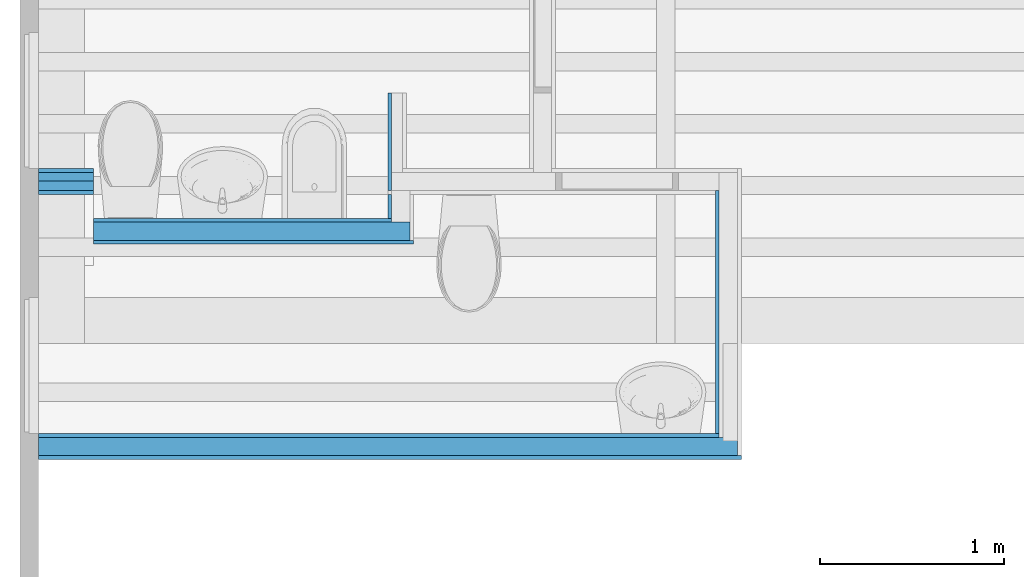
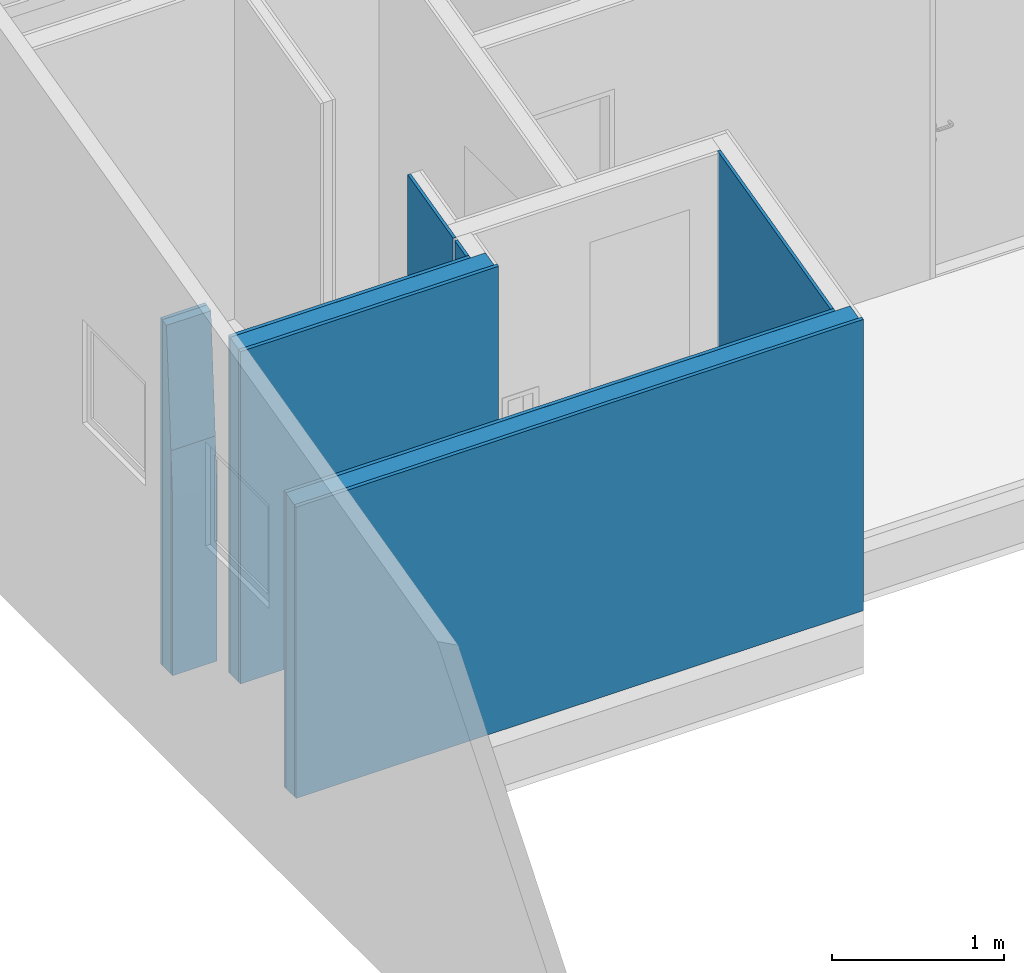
# One storey, part 6 of 13: 12 building element parts, 6 elements without a shape of their own.
"""IFC2X3 building model written with IfcOpenShell, lengths in millimetres."""

import ifcopenshell
import ifcopenshell.guid

model = None  # the IFC model being written
_history = None  # IfcOwnerHistory: only IFC2X3 demands one
_inside = {}  # id of a spatial element -> (the spatial element, [elements in it])
_under = {}  # id of a project, library or spatial element -> (it, [spatial elements below it])
_declared = {}  # id of a project -> (the project, [libraries it declares])
_typed = {}  # id of a type object -> (the type object, [elements of that type])
_made_of = {}  # id of a material, layer set ... -> (it, [elements and type objects made of it])


def new_model(schema):
    """Start an empty IFC model of exactly this schema.

    Asked for "IFC4X3", IfcOpenShell would pick the latest addendum, in which some entities
    have other attributes; the version numbers below select the first issue.
    IFC2X3 requires an IfcOwnerHistory on every rooted entity: one is made here for all.
    """
    global model, _history
    if schema == "IFC4X3":
        model = ifcopenshell.file(schema_version=(4, 3, 0, 0))
    else:
        model = ifcopenshell.file(schema=schema)
    _inside.clear()
    _under.clear()
    _declared.clear()
    _typed.clear()
    _made_of.clear()
    _history = None
    if model.schema == "IFC2X3":
        org = make("IfcOrganization", Name="unknown")
        user = make(
            "IfcPersonAndOrganization",
            ThePerson=make("IfcPerson", FamilyName="unknown"),
            TheOrganization=org,
        )
        app = make(
            "IfcApplication",
            ApplicationDeveloper=org,
            Version="unknown",
            ApplicationFullName="unknown",
            ApplicationIdentifier="unknown",
        )
        _history = make(
            "IfcOwnerHistory",
            OwningUser=user,
            OwningApplication=app,
            ChangeAction="ADDED",
            CreationDate=0,
        )
    return model


def make(cls, **values):
    """One entity of the class cls with the attributes given. An attribute that is None is left unset."""
    return model.create_entity(
        cls, **{name: value for name, value in values.items() if value is not None}
    )


def entity(cls, *values):
    """Any entity or typed value of the class cls, its attributes in the order of the schema. None: left unset."""
    e = model.create_entity(cls)
    for i, value in enumerate(values):
        if value is not None:
            e[i] = value
    return e


def rooted(cls, **values):
    """An entity with a GlobalId (a new one), such as an element, a storey or a relation."""
    return make(cls, GlobalId=ifcopenshell.guid.new(), OwnerHistory=_history, **values)


def si_unit(unit_type, name, prefix=None):
    """IfcSIUnit, for example si_unit("LENGTHUNIT", "METRE", prefix="MILLI")."""
    return make("IfcSIUnit", UnitType=unit_type, Prefix=prefix, Name=name)


def converted_unit(unit_type, name, factor, base, dimensions=None, offset=None):
    """IfcConversionBasedUnit, such as the inch: factor (a typed value) times the base unit."""
    return make(
        "IfcConversionBasedUnit"
        if offset is None
        else "IfcConversionBasedUnitWithOffset",
        ConversionOffset=offset,
        Dimensions=None
        if dimensions is None
        else entity("IfcDimensionalExponents", *dimensions),
        UnitType=unit_type,
        Name=name,
        ConversionFactor=make(
            "IfcMeasureWithUnit", ValueComponent=factor, UnitComponent=base
        ),
    )


def derived_unit(unit_type, elements):
    """IfcDerivedUnit: a product of units, each with its exponent."""
    return make(
        "IfcDerivedUnit",
        Elements=[
            make("IfcDerivedUnitElement", Unit=unit, Exponent=power)
            for unit, power in elements
        ],
        UnitType=unit_type,
    )


def money_unit(currency):
    """IfcMonetaryUnit."""
    return make("IfcMonetaryUnit", Currency=currency)


def assignment(units):
    """IfcUnitAssignment: the units of a project."""
    return None if units is None else make("IfcUnitAssignment", Units=units)


def point(xyz):
    """IfcCartesianPoint."""
    return None if xyz is None else make("IfcCartesianPoint", Coordinates=xyz)


def direction(xyz):
    """IfcDirection."""
    return None if xyz is None else make("IfcDirection", DirectionRatios=xyz)


def frame(location, z_axis=None, x_axis=None):
    """IfcAxis2Placement3D, a coordinate frame: its origin and axes. An axis left out is left unset."""
    return make(
        "IfcAxis2Placement3D",
        Location=point(location),
        Axis=direction(z_axis),
        RefDirection=direction(x_axis),
    )


def origin_with_axes():
    """The frame at (0, 0, 0) with the z axis (0, 0, 1) and the x axis (1, 0, 0) written out."""
    return frame((0.0, 0.0, 0.0), z_axis=(0.0, 0.0, 1.0), x_axis=(1.0, 0.0, 0.0))


def place(relative_to, where):
    """IfcLocalPlacement: puts the frame where relative to a parent placement (None: the world)."""
    return make(
        "IfcLocalPlacement", PlacementRelTo=relative_to, RelativePlacement=where
    )


def context(
    kind, dimensions, precision=None, world=None, true_north=None, identifier=None
):
    """IfcGeometricRepresentationContext, for example the 3D "Model" context."""
    return make(
        "IfcGeometricRepresentationContext",
        ContextIdentifier=identifier,
        ContextType=kind,
        CoordinateSpaceDimension=dimensions,
        Precision=precision,
        WorldCoordinateSystem=world,
        TrueNorth=true_north,
    )


def subcontext(parent, identifier, kind, view, scale=None):
    """IfcGeometricRepresentationSubContext, for example "Body" below "Model"."""
    return make(
        "IfcGeometricRepresentationSubContext",
        ContextIdentifier=identifier,
        ContextType=kind,
        ParentContext=parent,
        TargetScale=scale,
        TargetView=view,
    )


def project(units=None, contexts=None):
    """IfcProject with its units and contexts."""
    return rooted(
        "IfcProject",
        Name="project",
        RepresentationContexts=contexts,
        UnitsInContext=assignment(units),
    )


def spatial(cls, under=None, at=None, **own):
    """A site, building, storey or space (cls), placed at a placement, below another one or the project."""
    s = rooted(cls, ObjectPlacement=at, **own)
    if under is not None:
        _under.setdefault(under.id(), (under, []))[1].append(s)
    return s


def polyline(points):
    """IfcPolyline through the points."""
    return make("IfcPolyline", Points=[point(p) for p in points])


def outline(outer, holes=None, kind="AREA"):
    """IfcArbitraryClosedProfileDef: a profile drawn as a closed curve; with holes, ...WithVoids."""
    if holes is None:
        return make("IfcArbitraryClosedProfileDef", ProfileType=kind, OuterCurve=outer)
    return make(
        "IfcArbitraryProfileDefWithVoids",
        ProfileType=kind,
        OuterCurve=outer,
        InnerCurves=holes,
    )


def extrude(swept, where, along, depth):
    """IfcExtrudedAreaSolid: the profile swept, set in the frame where, extruded along a direction by depth."""
    return make(
        "IfcExtrudedAreaSolid",
        SweptArea=swept,
        Position=where,
        ExtrudedDirection=direction(along),
        Depth=depth,
    )


def boolean(op, a, b):
    """IfcBooleanResult of two solids."""
    return make("IfcBooleanResult", Operator=op, FirstOperand=a, SecondOperand=b)


def faces_of(points, faces, orient=None, outer=None):
    """IfcFace entities. A face is a list of loops; a loop is a list of indices into points, from 0.

    orient and outer hold one flag for each loop. By default every Orientation is true, the
    first loop of a face is its IfcFaceOuterBound and the others are IfcFaceBound.
    """
    made = []
    for i, loops in enumerate(faces):
        bounds = []
        for j, loop in enumerate(loops):
            is_outer = j == 0 if outer is None else outer[i][j]
            bounds.append(
                make(
                    "IfcFaceOuterBound" if is_outer else "IfcFaceBound",
                    Bound=make("IfcPolyLoop", Polygon=[points[k] for k in loop]),
                    Orientation=True if orient is None else orient[i][j],
                )
            )
        made.append(make("IfcFace", Bounds=bounds))
    return made


def faceted_brep(points, faces, orient=None, outer=None, voids=None):
    """IfcFacetedBrep: a solid bounded by flat faces; with voids (closed shells), ...WithVoids."""
    shared = [point(p) for p in points]
    hull = make("IfcClosedShell", CfsFaces=faces_of(shared, faces, orient, outer))
    if voids is None:
        return make("IfcFacetedBrep", Outer=hull)
    return make(
        "IfcFacetedBrepWithVoids",
        Outer=hull,
        Voids=[
            make(cls, CfsFaces=faces_of(shared, fs, o, b)) for cls, fs, o, b in voids
        ],
    )


def shape(context_of_items, identifier, shape_type, items):
    """IfcShapeRepresentation: the items that make up one representation, for example the "Body"."""
    return make(
        "IfcShapeRepresentation",
        ContextOfItems=context_of_items,
        RepresentationIdentifier=identifier,
        RepresentationType=shape_type,
        Items=items,
    )


def material(Name=None, Category=None):
    """IfcMaterial."""
    return make("IfcMaterial", Name=Name, Category=Category)


def made_of(thing, what):
    """Note that an element or type object is made of a material, layer set ...; save() writes the relation."""
    if what is not None:
        _made_of.setdefault(what.id(), (what, []))[1].append(thing)
    return thing


def type_object(cls, material=None, **own):
    """A type object (cls), such as IfcWallType, which elements share."""
    return made_of(rooted(cls, **own), material)


def element(
    cls,
    number,
    at=None,
    inside=None,
    cuts=None,
    type_object=None,
    material=None,
    context=None,
    identifier="Body",
    shape_type=None,
    held_by="IfcProductDefinitionShape",
    body=None,
    shapes=None,
    **own,
):
    """One element of the class cls, such as IfcWall. Its Tag is "e" and its number.

    at: its placement. inside: the storey or other place that contains it. cuts: it is an
    opening in that element (IfcRelVoidsElement). A single representation is given by context,
    identifier, shape_type and body (its items); several are given by shapes. held_by: the class
    of the entity that holds the representations. save() writes the other relations.
    """
    e = rooted(cls, Tag="e%d" % number, ObjectPlacement=at, **own)
    if body is not None:
        shapes = [shape(context, identifier, shape_type, body)]
    if shapes is not None:
        e.Representation = make(held_by, Representations=shapes)
    if inside is not None:
        _inside.setdefault(inside.id(), (inside, []))[1].append(e)
    if cuts is not None:
        rooted(
            "IfcRelVoidsElement", RelatingBuildingElement=cuts, RelatedOpeningElement=e
        )
    if type_object is not None:
        _typed.setdefault(type_object.id(), (type_object, []))[1].append(e)
    return made_of(e, material)


def aggregate(whole, parts):
    """IfcRelAggregates: a whole, such as a stair, and the parts it consists of."""
    return rooted("IfcRelAggregates", RelatingObject=whole, RelatedObjects=parts)


def save(model, path):
    """Write the relations noted so far, then the file.

    IfcRelAggregates (storeys below a building ...), IfcRelContainedInSpatialStructure (elements
    in a storey), IfcRelDefinesByType, IfcRelAssociatesMaterial and IfcRelDeclares: one each for
    every whole, place, type object, material and project.
    """
    for whole, parts in _under.values():
        aggregate(whole, parts)
    for where, things in _inside.values():
        rooted(
            "IfcRelContainedInSpatialStructure",
            RelatedElements=things,
            RelatingStructure=where,
        )
    for kind, things in _typed.values():
        rooted("IfcRelDefinesByType", RelatedObjects=things, RelatingType=kind)
    for what, things in _made_of.values():
        rooted("IfcRelAssociatesMaterial", RelatedObjects=things, RelatingMaterial=what)
    for by, libraries in _declared.values():
        rooted("IfcRelDeclares", RelatingContext=by, RelatedDefinitions=libraries)
    model.write(path)


model = new_model("IFC2X3")

# Units and contexts
model_context = context("Model", 3, precision=0.01, world=origin_with_axes(), true_north=direction((0.293984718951, 0.955810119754)))
body_context = subcontext(model_context, "Body", "Model", "MODEL_VIEW")
ifc_project = project(units=[si_unit("LENGTHUNIT", "METRE", prefix="MILLI"), si_unit("AREAUNIT", "SQUARE_METRE"), si_unit("VOLUMEUNIT", "CUBIC_METRE"), converted_unit("PLANEANGLEUNIT", "DEGREE", entity("IfcPlaneAngleMeasure", 0.0174532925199), si_unit("PLANEANGLEUNIT", "RADIAN"), dimensions=[0, 0, 0, 0, 0, 0, 0]), si_unit("SOLIDANGLEUNIT", "STERADIAN"), money_unit("USD"), converted_unit("TIMEUNIT", "Year", entity("IfcTimeMeasure", 31556926.0), si_unit("TIMEUNIT", "SECOND"), dimensions=[0, 0, 1, 0, 0, 0, 0]), si_unit("MASSUNIT", "GRAM", prefix="KILO"), si_unit("THERMODYNAMICTEMPERATUREUNIT", "DEGREE_CELSIUS"), si_unit("LUMINOUSINTENSITYUNIT", "LUMEN"), si_unit("ENERGYUNIT", "JOULE", prefix="MEGA"), derived_unit("THERMALCONDUCTANCEUNIT", [(si_unit("POWERUNIT", "WATT"), 1), (si_unit("LENGTHUNIT", "METRE"), -1), (si_unit("THERMODYNAMICTEMPERATUREUNIT", "KELVIN"), -1)]), derived_unit("SPECIFICHEATCAPACITYUNIT", [(si_unit("ENERGYUNIT", "JOULE"), 1), (si_unit("MASSUNIT", "GRAM", prefix="KILO"), -1), (si_unit("THERMODYNAMICTEMPERATUREUNIT", "KELVIN"), -1)]), derived_unit("MASSDENSITYUNIT", [(si_unit("MASSUNIT", "GRAM", prefix="KILO"), 1), (si_unit("VOLUMEUNIT", "CUBIC_METRE"), -1)])], contexts=[model_context])

# Site, building, storey
site_placement = place(None, origin_with_axes())
site = spatial("IfcSite", under=ifc_project, at=site_placement, Name="Local", CompositionType="ELEMENT")
building_placement = place(site_placement, origin_with_axes())
building = spatial("IfcBuilding", under=site, at=building_placement, Name="Construção", CompositionType="ELEMENT")
storey_placement = place(building_placement, frame((0.0, 0.0, 3050.0), z_axis=(0.0, 0.0, 1.0), x_axis=(1.0, 0.0, 0.0)))
storey = spatial("IfcBuildingStorey", under=building, at=storey_placement, Name="Primeiro Pavimento", CompositionType="ELEMENT", Elevation=3050.0)

# Wall, building element parts
wall_type_1 = type_object("IfcWallType", Name="Alvenaria Tijolo Maciço com Revestimento 14cm 140", PredefinedType="NOTDEFINED")
wall_1_placement = place(storey_placement, frame((7009.64507267, 6290.63219788, 0.0), z_axis=(0.0, 0.0, 1.0), x_axis=(1.0, 0.0, 0.0)))
wall_1 = element("IfcWall", 1, at=wall_1_placement, inside=storey, type_object=wall_type_1, Name="Parede")
ifc_material_1 = material(Name="Reboco (1)")
building_element_part_1_placement = place(wall_1_placement, origin_with_axes())
building_element_part_1 = element("IfcBuildingElementPart", 2, at=building_element_part_1_placement, material=ifc_material_1, Name="Reboco (1)", context=body_context, shape_type="CSG", body=[
    boolean("DIFFERENCE", boolean("DIFFERENCE", boolean("DIFFERENCE", extrude(outline(polyline([(-100.0, -70.0), (3820.0, -70.0), (3820.0, -50.0), (-100.0, -50.0), (-100.0, -70.0)])), origin_with_axes(), (0.0, 0.0, 1.0), 3211.87314734), faceted_brep([(3820.0, -70.0, 2073.27336427), (3820.0, -50.0, 2078.25992432), (3820.0, -50.0, 3211.87314734), (3820.0, -70.0, 3211.87314734), (-9.40613809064e-07, -70.0, 2073.27336427), (-9.45825640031e-07, -50.0, 2078.25992432), (0.0, -50.0, 0.0), (-100.0, -50.0, 0.0), (-100.0, -50.0, 3211.87314734), (-100.0, -70.0, 3211.87314734), (-100.0, -70.0, 0.0), (0.0, -70.0, 0.0)], [[[0, 1, 2, 3]], [[1, 0, 4, 5]], [[5, 6, 7, 8, 2, 1]], [[8, 9, 3, 2]], [[4, 0, 3, 9, 10, 11]], [[11, 6, 5, 4]], [[6, 11, 10, 7]], [[8, 7, 10, 9]]])), faceted_brep([(-9.71885683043e-07, 50.0, 2103.19272461), (0.0, 50.0, 0.0), (-100.0, 50.0, 0.0), (-100.0, 50.0, 3211.87314734), (3820.0, 50.0, 3211.87314734), (3820.0, 50.0, 0.0), (3800.0, 50.0, 0.0), (3800.0, 50.0, 2103.19272461), (0.0, -50.0, 0.0), (-9.45825640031e-07, -50.0, 2078.25992432), (-100.0, -50.0, 0.0), (-100.0, -50.0, 3211.87314734), (3820.0, -50.0, 3211.87314734), (3820.0, -50.0, 0.0), (3800.0, -50.0, 0.0), (3800.0, -50.0, 2078.25992432)], [[[0, 1, 2, 3, 4, 5, 6, 7]], [[8, 1, 0, 9]], [[1, 8, 10, 2]], [[3, 2, 10, 11]], [[3, 11, 12, 4]], [[12, 13, 5, 4]], [[14, 6, 5, 13]], [[7, 6, 14, 15]], [[7, 15, 9, 0]], [[15, 14, 13, 12, 11, 10, 8, 9]]])), faceted_brep([(-9.7709751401e-07, 70.0, 2108.17928466), (0.0, 70.0, 0.0), (-100.0, 70.0, 0.0), (-100.0, 70.0, 3211.87314734), (3820.0, 70.0, 3211.87314734), (3820.0, 70.0, 0.0), (3700.0, 70.0, 0.0), (3700.0, 70.0, 2108.17928466), (-9.71885683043e-07, 50.0, 2103.19272461), (0.0, 50.0, 0.0), (-100.0, 50.0, 0.0), (-100.0, 50.0, 3211.87314734), (3820.0, 50.0, 3211.87314734), (3820.0, 50.0, 0.0), (3700.0, 50.0, 0.0), (3700.0, 50.0, 2103.19272461)], [[[0, 1, 2, 3, 4, 5, 6, 7]], [[1, 0, 8, 9]], [[1, 9, 10, 2]], [[3, 2, 10, 11]], [[3, 11, 12, 4]], [[12, 13, 5, 4]], [[14, 6, 5, 13]], [[7, 6, 14, 15]], [[0, 7, 15, 8]], [[15, 14, 13, 12, 11, 10, 9, 8]]])),
])
ifc_material_2 = material(Name="Tijolo - Estrutural (1)")
building_element_part_2_placement = place(wall_1_placement, origin_with_axes())
building_element_part_2 = element("IfcBuildingElementPart", 3, at=building_element_part_2_placement, material=ifc_material_2, Name="Tijolo - Estrutural (1)", context=body_context, shape_type="CSG", body=[
    boolean("DIFFERENCE", boolean("DIFFERENCE", boolean("DIFFERENCE", extrude(outline(polyline([(-100.0, -50.0), (3820.0, -50.0), (3820.0, 50.0), (-100.0, 50.0), (-100.0, -50.0)])), origin_with_axes(), (0.0, 0.0, 1.0), 3211.87314734), faceted_brep([(3820.0, -70.0, 2073.27336427), (3820.0, -50.0, 2078.25992432), (3820.0, -50.0, 3211.87314734), (3820.0, -70.0, 3211.87314734), (-9.40613809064e-07, -70.0, 2073.27336427), (-9.45825640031e-07, -50.0, 2078.25992432), (0.0, -50.0, 0.0), (-100.0, -50.0, 0.0), (-100.0, -50.0, 3211.87314734), (-100.0, -70.0, 3211.87314734), (-100.0, -70.0, 0.0), (0.0, -70.0, 0.0)], [[[0, 1, 2, 3]], [[1, 0, 4, 5]], [[5, 6, 7, 8, 2, 1]], [[8, 9, 3, 2]], [[4, 0, 3, 9, 10, 11]], [[11, 6, 5, 4]], [[6, 11, 10, 7]], [[8, 7, 10, 9]]])), faceted_brep([(-9.71885683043e-07, 50.0, 2103.19272461), (0.0, 50.0, 0.0), (-100.0, 50.0, 0.0), (-100.0, 50.0, 3211.87314734), (3820.0, 50.0, 3211.87314734), (3820.0, 50.0, 0.0), (3800.0, 50.0, 0.0), (3800.0, 50.0, 2103.19272461), (0.0, -50.0, 0.0), (-9.45825640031e-07, -50.0, 2078.25992432), (-100.0, -50.0, 0.0), (-100.0, -50.0, 3211.87314734), (3820.0, -50.0, 3211.87314734), (3820.0, -50.0, 0.0), (3800.0, -50.0, 0.0), (3800.0, -50.0, 2078.25992432)], [[[0, 1, 2, 3, 4, 5, 6, 7]], [[8, 1, 0, 9]], [[1, 8, 10, 2]], [[3, 2, 10, 11]], [[3, 11, 12, 4]], [[12, 13, 5, 4]], [[14, 6, 5, 13]], [[7, 6, 14, 15]], [[7, 15, 9, 0]], [[15, 14, 13, 12, 11, 10, 8, 9]]])), faceted_brep([(-9.7709751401e-07, 70.0, 2108.17928466), (0.0, 70.0, 0.0), (-100.0, 70.0, 0.0), (-100.0, 70.0, 3211.87314734), (3820.0, 70.0, 3211.87314734), (3820.0, 70.0, 0.0), (3700.0, 70.0, 0.0), (3700.0, 70.0, 2108.17928466), (-9.71885683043e-07, 50.0, 2103.19272461), (0.0, 50.0, 0.0), (-100.0, 50.0, 0.0), (-100.0, 50.0, 3211.87314734), (3820.0, 50.0, 3211.87314734), (3820.0, 50.0, 0.0), (3700.0, 50.0, 0.0), (3700.0, 50.0, 2103.19272461)], [[[0, 1, 2, 3, 4, 5, 6, 7]], [[1, 0, 8, 9]], [[1, 9, 10, 2]], [[3, 2, 10, 11]], [[3, 11, 12, 4]], [[12, 13, 5, 4]], [[14, 6, 5, 13]], [[7, 6, 14, 15]], [[0, 7, 15, 8]], [[15, 14, 13, 12, 11, 10, 9, 8]]])),
])
building_element_part_3_placement = place(wall_1_placement, origin_with_axes())
building_element_part_3 = element("IfcBuildingElementPart", 4, at=building_element_part_3_placement, material=ifc_material_1, Name="Reboco (1)", context=body_context, shape_type="CSG", body=[
    boolean("DIFFERENCE", boolean("DIFFERENCE", boolean("DIFFERENCE", extrude(outline(polyline([(-100.0, 50.0), (3820.0, 50.0), (3820.0, 70.0), (-100.0, 70.0), (-100.0, 50.0)])), origin_with_axes(), (0.0, 0.0, 1.0), 3211.87314734), faceted_brep([(3820.0, -70.0, 2073.27336427), (3820.0, -50.0, 2078.25992432), (3820.0, -50.0, 3211.87314734), (3820.0, -70.0, 3211.87314734), (-9.40613809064e-07, -70.0, 2073.27336427), (-9.45825640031e-07, -50.0, 2078.25992432), (0.0, -50.0, 0.0), (-100.0, -50.0, 0.0), (-100.0, -50.0, 3211.87314734), (-100.0, -70.0, 3211.87314734), (-100.0, -70.0, 0.0), (0.0, -70.0, 0.0)], [[[0, 1, 2, 3]], [[1, 0, 4, 5]], [[5, 6, 7, 8, 2, 1]], [[8, 9, 3, 2]], [[4, 0, 3, 9, 10, 11]], [[11, 6, 5, 4]], [[6, 11, 10, 7]], [[8, 7, 10, 9]]])), faceted_brep([(-9.71885683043e-07, 50.0, 2103.19272461), (0.0, 50.0, 0.0), (-100.0, 50.0, 0.0), (-100.0, 50.0, 3211.87314734), (3820.0, 50.0, 3211.87314734), (3820.0, 50.0, 0.0), (3800.0, 50.0, 0.0), (3800.0, 50.0, 2103.19272461), (0.0, -50.0, 0.0), (-9.45825640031e-07, -50.0, 2078.25992432), (-100.0, -50.0, 0.0), (-100.0, -50.0, 3211.87314734), (3820.0, -50.0, 3211.87314734), (3820.0, -50.0, 0.0), (3800.0, -50.0, 0.0), (3800.0, -50.0, 2078.25992432)], [[[0, 1, 2, 3, 4, 5, 6, 7]], [[8, 1, 0, 9]], [[1, 8, 10, 2]], [[3, 2, 10, 11]], [[3, 11, 12, 4]], [[12, 13, 5, 4]], [[14, 6, 5, 13]], [[7, 6, 14, 15]], [[7, 15, 9, 0]], [[15, 14, 13, 12, 11, 10, 8, 9]]])), faceted_brep([(-9.7709751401e-07, 70.0, 2108.17928466), (0.0, 70.0, 0.0), (-100.0, 70.0, 0.0), (-100.0, 70.0, 3211.87314734), (3820.0, 70.0, 3211.87314734), (3820.0, 70.0, 0.0), (3700.0, 70.0, 0.0), (3700.0, 70.0, 2108.17928466), (-9.71885683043e-07, 50.0, 2103.19272461), (0.0, 50.0, 0.0), (-100.0, 50.0, 0.0), (-100.0, 50.0, 3211.87314734), (3820.0, 50.0, 3211.87314734), (3820.0, 50.0, 0.0), (3700.0, 50.0, 0.0), (3700.0, 50.0, 2103.19272461)], [[[0, 1, 2, 3, 4, 5, 6, 7]], [[1, 0, 8, 9]], [[1, 9, 10, 2]], [[3, 2, 10, 11]], [[3, 11, 12, 4]], [[12, 13, 5, 4]], [[14, 6, 5, 13]], [[7, 6, 14, 15]], [[0, 7, 15, 8]], [[15, 14, 13, 12, 11, 10, 9, 8]]])),
])
aggregate(wall_1, [building_element_part_1, building_element_part_2, building_element_part_3])

# Wall, building element part
wall_2_placement = place(storey_placement, frame((10759.6450727, 7730.63219788, 0.0), z_axis=(0.0, 0.0, 1.0), x_axis=(0.0, -1.0, 0.0)))
wall_2 = element("IfcWall", 5, at=wall_2_placement, inside=storey, type_object=wall_type_1, Name="Parede")
building_element_part_4_placement = place(wall_2_placement, origin_with_axes())
building_element_part_4 = element("IfcBuildingElementPart", 6, at=building_element_part_4_placement, material=ifc_material_1, Name="Reboco (1)", context=body_context, shape_type="CSG", body=[
    boolean("DIFFERENCE", boolean("DIFFERENCE", boolean("DIFFERENCE", extrude(outline(polyline([(-70.0000000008, -70.0), (1510.0, -70.0), (1510.0, -50.0), (-70.0000000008, -50.0), (-70.0000000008, -70.0)])), origin_with_axes(), (0.0, 0.0, 1.0), 3211.87314734), faceted_brep([(1370.0, -49.9999999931, 0.0), (1370.0, -49.9999999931, 2108.17928466), (49.9999999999, -49.9999999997, 2437.29224842), (49.9999999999, -49.9999999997, 0.0), (-70.0000000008, -50.0, 0.0), (-70.0000000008, -50.0, 3211.87314734), (1510.0, -50.0, 3211.87314734), (1510.0, -50.0, 0.0), (1370.0, -69.9999999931, 0.0), (1370.0, -69.9999999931, 2108.17928466), (50.0, -69.9999999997, 2437.29224842), (50.0, -69.9999999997, 0.0), (-70.0000000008, -70.0, 0.0), (-70.0000000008, -70.0, 3211.87314734), (1510.0, -70.0, 3211.87314734), (1510.0, -70.0, 0.0)], [[[0, 1, 2, 3, 4, 5, 6, 7]], [[1, 0, 8, 9]], [[9, 10, 2, 1]], [[3, 2, 10, 11]], [[3, 11, 12, 4]], [[5, 4, 12, 13]], [[5, 13, 14, 6]], [[14, 15, 7, 6]], [[8, 0, 7, 15]], [[9, 8, 15, 14, 13, 12, 11, 10]]])), faceted_brep([(1390.0, 50.000000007, 0.0), (1390.0, 50.000000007, 2103.19272461), (-50.0000000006, 49.9999999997, 2462.2250487), (-50.0000000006, 49.9999999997, 0.0), (-70.0000000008, 50.0, 0.0), (-70.0000000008, 50.0, 3211.87314734), (1510.0, 50.0, 3211.87314734), (1510.0, 50.0, 0.0), (1390.0, -49.999999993, 0.0), (1390.0, -49.999999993, 2103.19272461), (-50.0000000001, -50.0000000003, 2462.2250487), (-50.0000000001, -50.0000000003, 0.0), (-70.0000000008, -50.0, 0.0), (-70.0000000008, -50.0, 3211.87314734), (1510.0, -50.0, 3211.87314734), (1510.0, -50.0, 0.0)], [[[0, 1, 2, 3, 4, 5, 6, 7]], [[1, 0, 8, 9]], [[10, 2, 1, 9]], [[3, 2, 10, 11]], [[3, 11, 12, 4]], [[5, 4, 12, 13]], [[5, 13, 14, 6]], [[14, 15, 7, 6]], [[8, 0, 7, 15]], [[9, 8, 15, 14, 13, 12, 11, 10]]])), faceted_brep([(1490.0, 70.0000000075, 0.0), (1490.0, 70.0000000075, 2078.25992432), (-70.0000000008, 69.9999999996, 2467.21160876), (-70.0000000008, 70.0, 3211.87314734), (1510.0, 70.0, 3211.87314734), (1510.0, 70.0, 0.0), (1490.0, 50.0000000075, 0.0), (1490.0, 50.0000000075, 2078.25992432), (-70.0000000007, 49.9999999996, 2467.21160876), (-70.0000000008, 50.0, 3211.87314734), (1510.0, 50.0, 3211.87314734), (1510.0, 50.0, 0.0)], [[[0, 1, 2, 3, 4, 5]], [[1, 0, 6, 7]], [[8, 2, 1, 7]], [[2, 8, 9, 3]], [[3, 9, 10, 4]], [[10, 11, 5, 4]], [[6, 0, 5, 11]], [[7, 6, 11, 10, 9, 8]]])),
])
aggregate(wall_2, [building_element_part_4])

wall_type_2 = type_object("IfcWallType", Name="Alvenaria Tijolo Maciço com Revestimento 10cm 100", PredefinedType="NOTDEFINED")
wall_3_placement = place(storey_placement, frame((8909.64507267, 7730.63219788, 50.0), z_axis=(0.0, 0.0, 1.0), x_axis=(0.0, 1.0, 0.0)))
wall_3 = element("IfcWall", 7, at=wall_3_placement, inside=storey, type_object=wall_type_2, Name="Parede")
building_element_part_5_placement = place(wall_3_placement, origin_with_axes())
building_element_part_5 = element("IfcBuildingElementPart", 8, at=building_element_part_5_placement, material=ifc_material_1, Name="Reboco (1)", context=body_context, shape_type="CSG", body=[
    boolean("DIFFERENCE", boolean("DIFFERENCE", boolean("DIFFERENCE", extrude(outline(polyline([(-70.0, -20.0), (480.0, -20.0), (480.0, 0.0), (-70.0, 0.0), (-70.0, -20.0)])), origin_with_axes(), (0.0, 0.0, 1.0), 4250.0), faceted_brep([(70.0000000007, -100.0, 0.0), (70.0000000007, -100.0, 2417.21160876), (480.0, -100.0, 2519.43608992), (480.0, -100.0, 4250.0), (-70.0, -100.0, 4250.0), (-70.0, -100.0, 0.0), (70.0000000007, -80.0, 0.0), (70.0000000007, -80.0, 2417.21160876), (480.0, -80.0, 2519.43608992), (480.0, -80.0, 4250.0), (-70.0, -80.0, 4250.0), (-70.0, -80.0, 0.0)], [[[0, 1, 2, 3, 4, 5]], [[1, 0, 6, 7]], [[8, 2, 1, 7]], [[2, 8, 9, 3]], [[10, 4, 3, 9]], [[10, 11, 5, 4]], [[6, 0, 5, 11]], [[7, 6, 11, 10, 9, 8]]])), faceted_brep([(50.0000000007, -80.0, 2412.2250487), (480.0, -80.0, 2519.43608992), (480.0, -80.0, 4250.0), (-70.0, -80.0, 4250.0), (-70.0, -80.0, 0.0), (50.0000000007, -80.0, 0.0), (480.0, -20.0, 2519.43608992), (50.0000000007, -20.0, 2412.2250487), (480.0, -20.0, 4250.0), (-70.0, -20.0, 4250.0), (-70.0, -20.0, 0.0), (50.0000000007, -20.0, 0.0)], [[[0, 1, 2, 3, 4, 5]], [[6, 1, 0, 7]], [[1, 6, 8, 2]], [[9, 3, 2, 8]], [[9, 10, 4, 3]], [[11, 5, 4, 10]], [[0, 5, 11, 7]], [[7, 11, 10, 9, 8, 6]]])), faceted_brep([(-49.9999999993, -20.0, 2387.29224842), (480.0, -20.0, 2519.43608992), (480.0, -20.0, 4250.0), (-70.0, -20.0, 4250.0), (-70.0, -20.0, 0.0), (-49.9999999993, -20.0, 0.0), (480.0, 0.0, 2519.43608992), (-49.9999999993, -4.18596535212e-06, 2387.29224842), (480.0, 0.0, 4250.0), (-70.0, 0.0, 4250.0), (-70.0, 0.0, 0.0), (-49.9999999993, -4.18596535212e-06, 0.0)], [[[0, 1, 2, 3, 4, 5]], [[6, 1, 0, 7]], [[1, 6, 8, 2]], [[9, 3, 2, 8]], [[9, 10, 4, 3]], [[11, 5, 4, 10]], [[0, 5, 11, 7]], [[7, 11, 10, 9, 8, 6]]])),
])
aggregate(wall_3, [building_element_part_5])

# Wall, building element parts
wall_4_placement = place(storey_placement, frame((7309.64507267, 7460.63219788, 0.0), z_axis=(0.0, 0.0, 1.0), x_axis=(1.0, 0.0, 0.0)))
wall_4 = element("IfcWall", 9, at=wall_4_placement, inside=storey, type_object=wall_type_1, Name="Parede")
building_element_part_6_placement = place(wall_4_placement, origin_with_axes())
building_element_part_6 = element("IfcBuildingElementPart", 10, at=building_element_part_6_placement, material=ifc_material_1, Name="Reboco (1)", context=body_context, shape_type="CSG", body=[
    boolean("DIFFERENCE", boolean("DIFFERENCE", boolean("DIFFERENCE", extrude(outline(polyline([(0.0, -70.0), (1740.00000001, -70.0), (1740.00000001, -50.0), (0.0, -50.0), (0.0, -70.0)])), origin_with_axes(), (0.0, 0.0, 1.0), 3211.87314734), faceted_brep([(1740.00000001, -70.0, 2364.98712759), (1740.00000001, -50.0, 2369.97368765), (1740.00000001, -50.0, 3211.87314734), (1740.00000001, -70.0, 3211.87314734), (0.0, -70.0, 2364.98712759), (0.0, -50.0, 2369.97368765), (0.0, -50.0, 3211.87314734), (0.0, -70.0, 3211.87314734)], [[[0, 1, 2, 3]], [[1, 0, 4, 5]], [[1, 5, 6, 2]], [[6, 7, 3, 2]], [[4, 0, 3, 7]], [[5, 4, 7, 6]]])), faceted_brep([(1720.00000001, 50.0, 2394.90648793), (0.0, 50.0, 2394.90648793), (0.0, 50.0, 3211.87314734), (1740.00000001, 50.0, 3211.87314734), (1740.00000001, 50.0, 0.0), (1720.00000001, 50.0, 0.0), (1720.00000001, -50.0, 2369.97368765), (0.0, -50.0, 2369.97368765), (0.0, -50.0, 3211.87314734), (1740.00000001, -50.0, 3211.87314734), (1740.00000001, -50.0, 0.0), (1720.00000001, -50.0, 0.0)], [[[0, 1, 2, 3, 4, 5]], [[0, 6, 7, 1]], [[1, 7, 8, 2]], [[2, 8, 9, 3]], [[9, 10, 4, 3]], [[11, 5, 4, 10]], [[0, 5, 11, 6]], [[6, 11, 10, 9, 8, 7]]])), faceted_brep([(1620.00000001, 70.0, 2399.89304799), (0.0, 70.0, 2399.89304799), (0.0, 70.0, 3211.87314734), (1740.00000001, 70.0, 3211.87314734), (1740.00000001, 70.0, 0.0), (1620.00000001, 70.0, 0.0), (1620.00000001, 50.0, 2394.90648793), (0.0, 50.0, 2394.90648793), (0.0, 50.0, 3211.87314734), (1740.00000001, 50.0, 3211.87314734), (1740.00000001, 50.0, 0.0), (1620.00000001, 50.0, 0.0)], [[[0, 1, 2, 3, 4, 5]], [[1, 0, 6, 7]], [[1, 7, 8, 2]], [[2, 8, 9, 3]], [[9, 10, 4, 3]], [[11, 5, 4, 10]], [[0, 5, 11, 6]], [[6, 11, 10, 9, 8, 7]]])),
])
building_element_part_7_placement = place(wall_4_placement, origin_with_axes())
building_element_part_7 = element("IfcBuildingElementPart", 11, at=building_element_part_7_placement, material=ifc_material_2, Name="Tijolo - Estrutural (1)", context=body_context, shape_type="CSG", body=[
    boolean("DIFFERENCE", boolean("DIFFERENCE", boolean("DIFFERENCE", extrude(outline(polyline([(0.0, -50.0), (1740.00000001, -50.0), (1740.00000001, 50.0), (0.0, 50.0), (0.0, -50.0)])), origin_with_axes(), (0.0, 0.0, 1.0), 3211.87314734), faceted_brep([(1740.00000001, -70.0, 2364.98712759), (1740.00000001, -50.0, 2369.97368765), (1740.00000001, -50.0, 3211.87314734), (1740.00000001, -70.0, 3211.87314734), (0.0, -70.0, 2364.98712759), (0.0, -50.0, 2369.97368765), (0.0, -50.0, 3211.87314734), (0.0, -70.0, 3211.87314734)], [[[0, 1, 2, 3]], [[1, 0, 4, 5]], [[1, 5, 6, 2]], [[6, 7, 3, 2]], [[4, 0, 3, 7]], [[5, 4, 7, 6]]])), faceted_brep([(1720.00000001, 50.0, 2394.90648793), (0.0, 50.0, 2394.90648793), (0.0, 50.0, 3211.87314734), (1740.00000001, 50.0, 3211.87314734), (1740.00000001, 50.0, 0.0), (1720.00000001, 50.0, 0.0), (1720.00000001, -50.0, 2369.97368765), (0.0, -50.0, 2369.97368765), (0.0, -50.0, 3211.87314734), (1740.00000001, -50.0, 3211.87314734), (1740.00000001, -50.0, 0.0), (1720.00000001, -50.0, 0.0)], [[[0, 1, 2, 3, 4, 5]], [[0, 6, 7, 1]], [[1, 7, 8, 2]], [[2, 8, 9, 3]], [[9, 10, 4, 3]], [[11, 5, 4, 10]], [[0, 5, 11, 6]], [[6, 11, 10, 9, 8, 7]]])), faceted_brep([(1620.00000001, 70.0, 2399.89304799), (0.0, 70.0, 2399.89304799), (0.0, 70.0, 3211.87314734), (1740.00000001, 70.0, 3211.87314734), (1740.00000001, 70.0, 0.0), (1620.00000001, 70.0, 0.0), (1620.00000001, 50.0, 2394.90648793), (0.0, 50.0, 2394.90648793), (0.0, 50.0, 3211.87314734), (1740.00000001, 50.0, 3211.87314734), (1740.00000001, 50.0, 0.0), (1620.00000001, 50.0, 0.0)], [[[0, 1, 2, 3, 4, 5]], [[1, 0, 6, 7]], [[1, 7, 8, 2]], [[2, 8, 9, 3]], [[9, 10, 4, 3]], [[11, 5, 4, 10]], [[0, 5, 11, 6]], [[6, 11, 10, 9, 8, 7]]])),
])
building_element_part_8_placement = place(wall_4_placement, origin_with_axes())
building_element_part_8 = element("IfcBuildingElementPart", 12, at=building_element_part_8_placement, material=ifc_material_1, Name="Reboco (1)", context=body_context, shape_type="CSG", body=[
    boolean("DIFFERENCE", boolean("DIFFERENCE", boolean("DIFFERENCE", extrude(outline(polyline([(0.0, 50.0), (1740.00000001, 50.0), (1740.00000001, 70.0), (0.0, 70.0), (0.0, 50.0)])), origin_with_axes(), (0.0, 0.0, 1.0), 3211.87314734), faceted_brep([(1740.00000001, -70.0, 2364.98712759), (1740.00000001, -50.0, 2369.97368765), (1740.00000001, -50.0, 3211.87314734), (1740.00000001, -70.0, 3211.87314734), (0.0, -70.0, 2364.98712759), (0.0, -50.0, 2369.97368765), (0.0, -50.0, 3211.87314734), (0.0, -70.0, 3211.87314734)], [[[0, 1, 2, 3]], [[1, 0, 4, 5]], [[1, 5, 6, 2]], [[6, 7, 3, 2]], [[4, 0, 3, 7]], [[5, 4, 7, 6]]])), faceted_brep([(1720.00000001, 50.0, 2394.90648793), (0.0, 50.0, 2394.90648793), (0.0, 50.0, 3211.87314734), (1740.00000001, 50.0, 3211.87314734), (1740.00000001, 50.0, 0.0), (1720.00000001, 50.0, 0.0), (1720.00000001, -50.0, 2369.97368765), (0.0, -50.0, 2369.97368765), (0.0, -50.0, 3211.87314734), (1740.00000001, -50.0, 3211.87314734), (1740.00000001, -50.0, 0.0), (1720.00000001, -50.0, 0.0)], [[[0, 1, 2, 3, 4, 5]], [[0, 6, 7, 1]], [[1, 7, 8, 2]], [[2, 8, 9, 3]], [[9, 10, 4, 3]], [[11, 5, 4, 10]], [[0, 5, 11, 6]], [[6, 11, 10, 9, 8, 7]]])), faceted_brep([(1620.00000001, 70.0, 2399.89304799), (0.0, 70.0, 2399.89304799), (0.0, 70.0, 3211.87314734), (1740.00000001, 70.0, 3211.87314734), (1740.00000001, 70.0, 0.0), (1620.00000001, 70.0, 0.0), (1620.00000001, 50.0, 2394.90648793), (0.0, 50.0, 2394.90648793), (0.0, 50.0, 3211.87314734), (1740.00000001, 50.0, 3211.87314734), (1740.00000001, 50.0, 0.0), (1620.00000001, 50.0, 0.0)], [[[0, 1, 2, 3, 4, 5]], [[1, 0, 6, 7]], [[1, 7, 8, 2]], [[2, 8, 9, 3]], [[9, 10, 4, 3]], [[11, 5, 4, 10]], [[0, 5, 11, 6]], [[6, 11, 10, 9, 8, 7]]])),
])
aggregate(wall_4, [building_element_part_6, building_element_part_7, building_element_part_8])

wall_5_placement = place(storey_placement, frame((7309.64507267, 7730.63219788, 0.0), z_axis=(0.0, 0.0, 1.0), x_axis=(-1.0, 0.0, 0.0)))
wall_5 = element("IfcWall", 13, at=wall_5_placement, inside=storey, type_object=wall_type_1, Name="Parede")
building_element_part_9_placement = place(wall_5_placement, origin_with_axes())
building_element_part_9 = element("IfcBuildingElementPart", 14, at=building_element_part_9_placement, material=ifc_material_1, Name="Reboco (1)", context=body_context, shape_type="CSG", body=[
    boolean("DIFFERENCE", boolean("DIFFERENCE", boolean("DIFFERENCE", extrude(outline(polyline([(0.0, -70.0), (400.0, -70.0), (400.0, -50.0), (0.0, -50.0), (0.0, -70.0)])), origin_with_axes(), (0.0, 0.0, 1.0), 3211.87314734), faceted_brep([(0.0, -50.0, 2462.2250487), (0.0, -70.0, 2467.21160876), (0.0, -70.0, 3211.87314734), (0.0, -50.0, 3211.87314734), (300.000001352, -70.0000000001, 2467.21160876), (300.000001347, -50.0000000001, 2462.2250487), (300.0, -70.0000000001, 0.0), (400.0, -70.0, 0.0), (400.0, -70.0, 3211.87314734), (400.0, -50.0, 3211.87314734), (400.0, -50.0, 0.0), (300.0, -50.0000000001, 0.0)], [[[0, 1, 2, 3]], [[4, 1, 0, 5]], [[4, 6, 7, 8, 2, 1]], [[3, 2, 8, 9]], [[5, 0, 3, 9, 10, 11]], [[6, 4, 5, 11]], [[6, 11, 10, 7]], [[8, 7, 10, 9]]])), faceted_brep([(0.0, 49.9999999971, 1589.99999998), (0.0, -1.91073568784, 2450.23504847), (0.0, -50.0, 2462.2250487), (0.0, -50.0, 3211.87314734), (0.0, 50.0, 3211.87314734), (300.000000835, 49.9999999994, 1589.99999998), (300.000001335, -1.91073568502, 2450.23504847), (300.000001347, -50.0000000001, 2462.2250487), (300.0, -50.0000000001, 0.0), (400.0, -50.0, 0.0), (400.0, -50.0, 3211.87314734), (400.0, 50.0, 3211.87314734), (400.0, 50.0, 0.0), (300.0, 49.9999999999, 0.0)], [[[0, 1, 2, 3, 4]], [[1, 0, 5, 6]], [[2, 1, 6, 7]], [[7, 8, 9, 10, 3, 2]], [[4, 3, 10, 11]], [[5, 0, 4, 11, 12, 13]], [[13, 8, 7, 6, 5]], [[8, 13, 12, 9]], [[10, 9, 12, 11]]])), faceted_brep([(0.0, 69.9999999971, 1258.57142855), (0.0, 49.9999999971, 1589.99999998), (0.0, 50.0, 3211.87314734), (0.0, 70.0, 3211.87314734), (300.000000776, 69.9999999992, 1258.57142855), (300.000000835, 49.9999999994, 1589.99999998), (300.0, 49.9999999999, 0.0), (400.0, 50.0, 0.0), (400.0, 50.0, 3211.87314734), (400.0, 70.0, 3211.87314734), (400.0, 70.0, 0.0), (300.0, 69.9999999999, 0.0)], [[[0, 1, 2, 3]], [[1, 0, 4, 5]], [[5, 6, 7, 8, 2, 1]], [[3, 2, 8, 9]], [[4, 0, 3, 9, 10, 11]], [[11, 6, 5, 4]], [[6, 11, 10, 7]], [[8, 7, 10, 9]]])),
])
building_element_part_10_placement = place(wall_5_placement, origin_with_axes())
building_element_part_10 = element("IfcBuildingElementPart", 15, at=building_element_part_10_placement, material=ifc_material_2, Name="Tijolo - Estrutural (1)", context=body_context, shape_type="CSG", body=[
    boolean("DIFFERENCE", boolean("DIFFERENCE", boolean("DIFFERENCE", extrude(outline(polyline([(0.0, -50.0), (400.0, -50.0), (400.0, 50.0), (0.0, 50.0), (0.0, -50.0)])), origin_with_axes(), (0.0, 0.0, 1.0), 3211.87314734), faceted_brep([(0.0, -50.0, 2462.2250487), (0.0, -70.0, 2467.21160876), (0.0, -70.0, 3211.87314734), (0.0, -50.0, 3211.87314734), (300.000001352, -70.0000000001, 2467.21160876), (300.000001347, -50.0000000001, 2462.2250487), (300.0, -70.0000000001, 0.0), (400.0, -70.0, 0.0), (400.0, -70.0, 3211.87314734), (400.0, -50.0, 3211.87314734), (400.0, -50.0, 0.0), (300.0, -50.0000000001, 0.0)], [[[0, 1, 2, 3]], [[4, 1, 0, 5]], [[4, 6, 7, 8, 2, 1]], [[3, 2, 8, 9]], [[5, 0, 3, 9, 10, 11]], [[6, 4, 5, 11]], [[6, 11, 10, 7]], [[8, 7, 10, 9]]])), faceted_brep([(0.0, 49.9999999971, 1589.99999998), (0.0, -1.91073568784, 2450.23504847), (0.0, -50.0, 2462.2250487), (0.0, -50.0, 3211.87314734), (0.0, 50.0, 3211.87314734), (300.000000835, 49.9999999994, 1589.99999998), (300.000001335, -1.91073568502, 2450.23504847), (300.000001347, -50.0000000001, 2462.2250487), (300.0, -50.0000000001, 0.0), (400.0, -50.0, 0.0), (400.0, -50.0, 3211.87314734), (400.0, 50.0, 3211.87314734), (400.0, 50.0, 0.0), (300.0, 49.9999999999, 0.0)], [[[0, 1, 2, 3, 4]], [[1, 0, 5, 6]], [[2, 1, 6, 7]], [[7, 8, 9, 10, 3, 2]], [[4, 3, 10, 11]], [[5, 0, 4, 11, 12, 13]], [[13, 8, 7, 6, 5]], [[8, 13, 12, 9]], [[10, 9, 12, 11]]])), faceted_brep([(0.0, 69.9999999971, 1258.57142855), (0.0, 49.9999999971, 1589.99999998), (0.0, 50.0, 3211.87314734), (0.0, 70.0, 3211.87314734), (300.000000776, 69.9999999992, 1258.57142855), (300.000000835, 49.9999999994, 1589.99999998), (300.0, 49.9999999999, 0.0), (400.0, 50.0, 0.0), (400.0, 50.0, 3211.87314734), (400.0, 70.0, 3211.87314734), (400.0, 70.0, 0.0), (300.0, 69.9999999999, 0.0)], [[[0, 1, 2, 3]], [[1, 0, 4, 5]], [[5, 6, 7, 8, 2, 1]], [[3, 2, 8, 9]], [[4, 0, 3, 9, 10, 11]], [[11, 6, 5, 4]], [[6, 11, 10, 7]], [[8, 7, 10, 9]]])),
])
building_element_part_11_placement = place(wall_5_placement, origin_with_axes())
building_element_part_11 = element("IfcBuildingElementPart", 16, at=building_element_part_11_placement, material=ifc_material_1, Name="Reboco (1)", context=body_context, shape_type="CSG", body=[
    boolean("DIFFERENCE", boolean("DIFFERENCE", boolean("DIFFERENCE", extrude(outline(polyline([(0.0, 50.0), (400.0, 50.0), (400.0, 70.0), (0.0, 70.0), (0.0, 50.0)])), origin_with_axes(), (0.0, 0.0, 1.0), 3211.87314734), faceted_brep([(0.0, -50.0, 2462.2250487), (0.0, -70.0, 2467.21160876), (0.0, -70.0, 3211.87314734), (0.0, -50.0, 3211.87314734), (300.000001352, -70.0000000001, 2467.21160876), (300.000001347, -50.0000000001, 2462.2250487), (300.0, -70.0000000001, 0.0), (400.0, -70.0, 0.0), (400.0, -70.0, 3211.87314734), (400.0, -50.0, 3211.87314734), (400.0, -50.0, 0.0), (300.0, -50.0000000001, 0.0)], [[[0, 1, 2, 3]], [[4, 1, 0, 5]], [[4, 6, 7, 8, 2, 1]], [[3, 2, 8, 9]], [[5, 0, 3, 9, 10, 11]], [[6, 4, 5, 11]], [[6, 11, 10, 7]], [[8, 7, 10, 9]]])), faceted_brep([(0.0, 49.9999999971, 1589.99999998), (0.0, -1.91073568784, 2450.23504847), (0.0, -50.0, 2462.2250487), (0.0, -50.0, 3211.87314734), (0.0, 50.0, 3211.87314734), (300.000000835, 49.9999999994, 1589.99999998), (300.000001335, -1.91073568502, 2450.23504847), (300.000001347, -50.0000000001, 2462.2250487), (300.0, -50.0000000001, 0.0), (400.0, -50.0, 0.0), (400.0, -50.0, 3211.87314734), (400.0, 50.0, 3211.87314734), (400.0, 50.0, 0.0), (300.0, 49.9999999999, 0.0)], [[[0, 1, 2, 3, 4]], [[1, 0, 5, 6]], [[2, 1, 6, 7]], [[7, 8, 9, 10, 3, 2]], [[4, 3, 10, 11]], [[5, 0, 4, 11, 12, 13]], [[13, 8, 7, 6, 5]], [[8, 13, 12, 9]], [[10, 9, 12, 11]]])), faceted_brep([(0.0, 69.9999999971, 1258.57142855), (0.0, 49.9999999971, 1589.99999998), (0.0, 50.0, 3211.87314734), (0.0, 70.0, 3211.87314734), (300.000000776, 69.9999999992, 1258.57142855), (300.000000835, 49.9999999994, 1589.99999998), (300.0, 49.9999999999, 0.0), (400.0, 50.0, 0.0), (400.0, 50.0, 3211.87314734), (400.0, 70.0, 3211.87314734), (400.0, 70.0, 0.0), (300.0, 69.9999999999, 0.0)], [[[0, 1, 2, 3]], [[1, 0, 4, 5]], [[5, 6, 7, 8, 2, 1]], [[3, 2, 8, 9]], [[4, 0, 3, 9, 10, 11]], [[11, 6, 5, 4]], [[6, 11, 10, 7]], [[8, 7, 10, 9]]])),
])
aggregate(wall_5, [building_element_part_9, building_element_part_10, building_element_part_11])

# Wall, building element part
wall_6_placement = place(storey_placement, frame((8979.64507267, 7460.63219788, 0.0), z_axis=(0.0, 0.0, 1.0), x_axis=(0.0, 1.0, 0.0)))
wall_6 = element("IfcWall", 17, at=wall_6_placement, inside=storey, type_object=wall_type_1, Name="Parede")
building_element_part_12_placement = place(wall_6_placement, origin_with_axes())
building_element_part_12 = element("IfcBuildingElementPart", 18, at=building_element_part_12_placement, material=ifc_material_1, Name="Reboco (1)", context=body_context, shape_type="CSG", body=[
    boolean("DIFFERENCE", boolean("DIFFERENCE", boolean("DIFFERENCE", extrude(outline(polyline([(-70.0, 50.0), (340.0, 50.0), (340.0, 70.0), (-70.0, 70.0), (-70.0, 50.0)])), origin_with_axes(), (0.0, 0.0, 1.0), 3211.87314734), faceted_brep([(-50.0, -70.0, 0.0), (-50.0, -70.0, 2369.97368765), (200.0, -70.0, 2432.30568836), (200.0, -70.0, 0.0), (340.0, -70.0, 0.0), (340.0, -70.0, 3211.87314734), (-70.0, -70.0, 3211.87314734), (-70.0, -70.0, 0.0), (-50.0, -50.0, 0.0), (-50.0, -50.0, 2369.97368765), (200.0, -50.0, 2432.30568836), (200.0, -50.0, 0.0), (340.0, -50.0, 0.0), (340.0, -50.0, 3211.87314734), (-70.0, -50.0, 3211.87314734), (-70.0, -50.0, 0.0)], [[[0, 1, 2, 3, 4, 5, 6, 7]], [[1, 0, 8, 9]], [[2, 1, 9, 10]], [[3, 2, 10, 11]], [[3, 11, 12, 4]], [[5, 4, 12, 13]], [[14, 6, 5, 13]], [[14, 15, 7, 6]], [[8, 0, 7, 15]], [[9, 8, 15, 14, 13, 12, 11, 10]]])), faceted_brep([(50.0, -50.0, 2394.90648793), (220.0, -50.0, 2437.29224842), (220.0, -50.0, 0.0), (340.0, -50.0, 0.0), (340.0, -50.0, 3211.87314734), (-70.0, -50.0, 3211.87314734), (-70.0, -50.0, 0.0), (50.0, -50.0, 0.0), (50.0, 50.0, 2394.90648793), (220.0, 50.0, 2437.29224842), (220.0, 50.0, 0.0), (340.0, 50.0, 0.0), (340.0, 50.0, 3211.87314734), (-70.0, 50.0, 3211.87314734), (-70.0, 50.0, 0.0), (50.0, 50.0, 0.0)], [[[0, 1, 2, 3, 4, 5, 6, 7]], [[1, 0, 8, 9]], [[2, 1, 9, 10]], [[2, 10, 11, 3]], [[4, 3, 11, 12]], [[13, 5, 4, 12]], [[13, 14, 6, 5]], [[15, 7, 6, 14]], [[0, 7, 15, 8]], [[8, 15, 14, 13, 12, 11, 10, 9]]])), faceted_brep([(70.0, 50.0, 0.0), (70.0, 50.0, 2399.89304799), (200.0, 50.0, 2432.30568836), (200.0, 50.0, 0.0), (340.0, 50.0, 0.0), (340.0, 50.0, 3211.87314734), (-70.0, 50.0, 3211.87314734), (-70.0, 50.0, 0.0), (70.0, 70.0, 0.0), (70.0, 70.0, 2399.89304799), (200.0, 70.0, 2432.30568836), (200.0, 70.0, 0.0), (340.0, 70.0, 0.0), (340.0, 70.0, 3211.87314734), (-70.0, 70.0, 3211.87314734), (-70.0, 70.0, 0.0)], [[[0, 1, 2, 3, 4, 5, 6, 7]], [[1, 0, 8, 9]], [[9, 10, 2, 1]], [[3, 2, 10, 11]], [[3, 11, 12, 4]], [[5, 4, 12, 13]], [[14, 6, 5, 13]], [[14, 15, 7, 6]], [[8, 0, 7, 15]], [[9, 8, 15, 14, 13, 12, 11, 10]]])),
])
aggregate(wall_6, [building_element_part_12])

save(model, "model.ifc")
